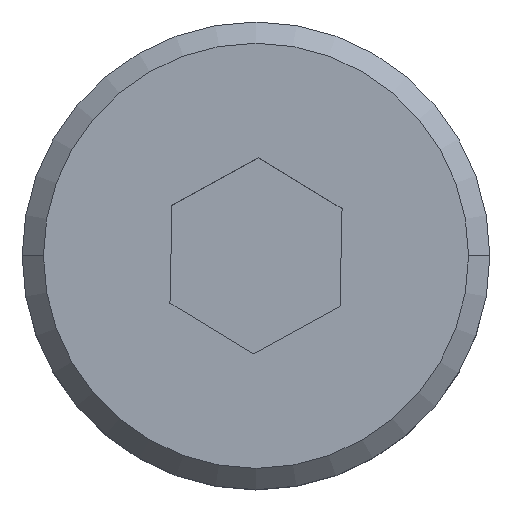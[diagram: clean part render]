
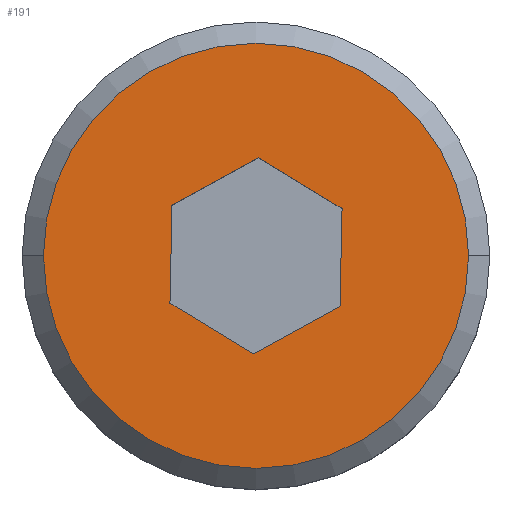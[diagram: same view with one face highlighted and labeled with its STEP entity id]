
A CAD part, top view. The second image highlights one B-rep face of the part: STEP entity #191.
In plain terms, the highlighted planar face has unit normal (0, 0, 1).
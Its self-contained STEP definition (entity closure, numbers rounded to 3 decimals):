
#12 = EDGE_CURVE ( 'NONE', #407, #437, #52, .T. ) ;
#23 = EDGE_CURVE ( 'NONE', #437, #407, #218, .T. ) ;
#25 = DIRECTION ( 'NONE',  ( 0.855, -0.518, 0. ) ) ;
#30 = LINE ( 'NONE', #436, #396 ) ;
#35 = ORIENTED_EDGE ( 'NONE', *, *, #67, .F. ) ;
#38 = VERTEX_POINT ( 'NONE', #324 ) ;
#43 = CARTESIAN_POINT ( 'NONE',  ( -4.048, -2.224, 10. ) ) ;
#44 = CARTESIAN_POINT ( 'NONE',  ( -4.048, -2.224, 10. ) ) ;
#52 = CIRCLE ( 'NONE', #317, 10. ) ;
#54 = EDGE_CURVE ( 'NONE', #306, #38, #30, .T. ) ;
#66 = DIRECTION ( 'NONE',  ( -0.876, -0.482, 0. ) ) ;
#67 = EDGE_CURVE ( 'NONE', #38, #366, #166, .T. ) ;
#71 = ORIENTED_EDGE ( 'NONE', *, *, #194, .F. ) ;
#93 = VERTEX_POINT ( 'NONE', #288 ) ;
#100 = LINE ( 'NONE', #44, #114 ) ;
#102 = DIRECTION ( 'NONE',  ( 0.021, 1., 0. ) ) ;
#114 = VECTOR ( 'NONE', #25, 1000. ) ;
#122 = LINE ( 'NONE', #225, #126 ) ;
#126 = VECTOR ( 'NONE', #175, 1000. ) ;
#131 = AXIS2_PLACEMENT_3D ( 'NONE', #214, #328, #248 ) ;
#146 = DIRECTION ( 'NONE',  ( 0., 0., 1. ) ) ;
#147 = EDGE_CURVE ( 'NONE', #366, #93, #100, .T. ) ;
#153 = CARTESIAN_POINT ( 'NONE',  ( 3.95, -2.393, 10. ) ) ;
#166 = LINE ( 'NONE', #283, #370 ) ;
#171 = VECTOR ( 'NONE', #240, 1000. ) ;
#175 = DIRECTION ( 'NONE',  ( -0.855, 0.518, 0. ) ) ;
#186 = AXIS2_PLACEMENT_3D ( 'NONE', #286, #442, #208 ) ;
#187 = PLANE ( 'NONE',  #131 ) ;
#188 = CARTESIAN_POINT ( 'NONE',  ( 0., 0., 10. ) ) ;
#189 = FACE_OUTER_BOUND ( 'NONE', #351, .T. ) ;
#191 = ADVANCED_FACE ( 'NONE', ( #189, #293 ), #187, .T. ) ;
#194 = EDGE_CURVE ( 'NONE', #266, #383, #339, .T. ) ;
#196 = ORIENTED_EDGE ( 'NONE', *, *, #147, .F. ) ;
#208 = DIRECTION ( 'NONE',  ( 1., 0., 0. ) ) ;
#210 = ORIENTED_EDGE ( 'NONE', *, *, #23, .T. ) ;
#213 = ORIENTED_EDGE ( 'NONE', *, *, #330, .F. ) ;
#214 = CARTESIAN_POINT ( 'NONE',  ( 0., 0., 10. ) ) ;
#218 = CIRCLE ( 'NONE', #186, 10. ) ;
#220 = EDGE_CURVE ( 'NONE', #383, #306, #122, .T. ) ;
#225 = CARTESIAN_POINT ( 'NONE',  ( 4.048, 2.224, 10. ) ) ;
#240 = DIRECTION ( 'NONE',  ( 0.876, 0.482, 0. ) ) ;
#248 = DIRECTION ( 'NONE',  ( 1., 0., 0. ) ) ;
#251 = DIRECTION ( 'NONE',  ( 1., 0., 0. ) ) ;
#266 = VERTEX_POINT ( 'NONE', #153 ) ;
#283 = CARTESIAN_POINT ( 'NONE',  ( -3.95, 2.393, 10. ) ) ;
#286 = CARTESIAN_POINT ( 'NONE',  ( 0., 0., 10. ) ) ;
#288 = CARTESIAN_POINT ( 'NONE',  ( -0.098, -4.618, 10. ) ) ;
#292 = CARTESIAN_POINT ( 'NONE',  ( 3.95, -2.393, 10. ) ) ;
#293 = FACE_BOUND ( 'NONE', #371, .T. ) ;
#298 = CARTESIAN_POINT ( 'NONE',  ( 4.048, 2.224, 10. ) ) ;
#306 = VERTEX_POINT ( 'NONE', #319 ) ;
#317 = AXIS2_PLACEMENT_3D ( 'NONE', #188, #146, #251 ) ;
#319 = CARTESIAN_POINT ( 'NONE',  ( 0.098, 4.618, 10. ) ) ;
#324 = CARTESIAN_POINT ( 'NONE',  ( -3.95, 2.393, 10. ) ) ;
#328 = DIRECTION ( 'NONE',  ( 0., 0., 1. ) ) ;
#330 = EDGE_CURVE ( 'NONE', #93, #266, #430, .T. ) ;
#339 = LINE ( 'NONE', #292, #439 ) ;
#347 = ORIENTED_EDGE ( 'NONE', *, *, #54, .F. ) ;
#350 = DIRECTION ( 'NONE',  ( -0.021, -1., 0. ) ) ;
#351 = EDGE_LOOP ( 'NONE', ( #210, #390 ) ) ;
#355 = ORIENTED_EDGE ( 'NONE', *, *, #220, .F. ) ;
#366 = VERTEX_POINT ( 'NONE', #43 ) ;
#369 = CARTESIAN_POINT ( 'NONE',  ( -10., 0., 10. ) ) ;
#370 = VECTOR ( 'NONE', #350, 1000. ) ;
#371 = EDGE_LOOP ( 'NONE', ( #347, #355, #71, #213, #196, #35 ) ) ;
#383 = VERTEX_POINT ( 'NONE', #298 ) ;
#390 = ORIENTED_EDGE ( 'NONE', *, *, #12, .T. ) ;
#391 = CARTESIAN_POINT ( 'NONE',  ( -0.098, -4.618, 10. ) ) ;
#396 = VECTOR ( 'NONE', #66, 1000. ) ;
#399 = CARTESIAN_POINT ( 'NONE',  ( 10., 0., 10. ) ) ;
#407 = VERTEX_POINT ( 'NONE', #399 ) ;
#430 = LINE ( 'NONE', #391, #171 ) ;
#436 = CARTESIAN_POINT ( 'NONE',  ( 0.098, 4.618, 10. ) ) ;
#437 = VERTEX_POINT ( 'NONE', #369 ) ;
#439 = VECTOR ( 'NONE', #102, 1000. ) ;
#442 = DIRECTION ( 'NONE',  ( 0., 0., 1. ) ) ;
